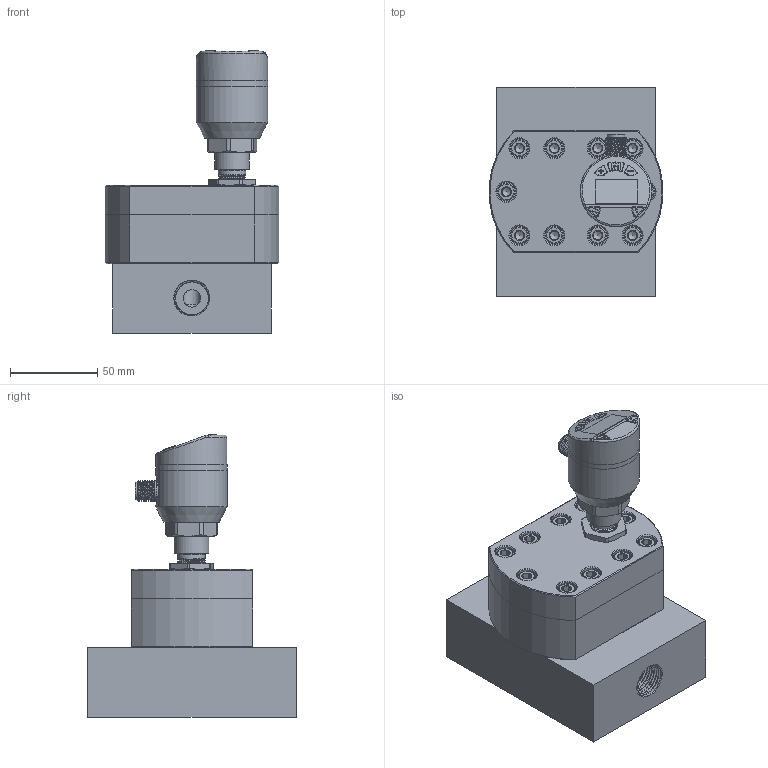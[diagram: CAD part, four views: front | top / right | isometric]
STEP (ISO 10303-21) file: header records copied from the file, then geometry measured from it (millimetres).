
FILE_DESCRIPTION( (''), '2;1');
FILE_NAME( 'QZKB_M4_mounting-plate.step', '2025-05-06T16:31:48+08:00', (''), (''), '', '', '');
FILE_SCHEMA (('AUTOMOTIVE_DESIGN { 1 0 10303 214 3 1 1 1 }'));
Products named in the file (1): QZKB M4_mounting-plate
Bounding box: 99.63 x 120 x 162.2 mm (x, y, z)
Volume: 724591.8 mm3; surface area: 144050 mm2
Topology: 28 solids, 29 shells, 1293 faces, 3119 edges, 1965 vertices
Faces by surface type: plane 651, cylinder 314, cone 189, bspline 65, torus 59, sphere 11, extrusion 4
Full cylindrical faces by diameter (mm): 1 x12, 2.7 x5, 3.1 x1, 3.5 x2, 4 x3, 5 x21, 5.795 x10, 6 x3, 6.5 x14, 7 x3, 8 x3, 8.4 x1, 9.7 x1, 9.8 x1, 10 x14, 10.1 x1, 11 x11, 11.6 x2, 12 x1, 15.9 x1, 20 x1, 23 x3, 26 x4, 26.1 x1, 35 x1, 37 x3, 41 x3
Entity records: 59448 total; most frequent: CARTESIAN_POINT 30422, DIRECTION 5771, ORIENTED_EDGE 5526, EDGE_CURVE 2763, AXIS2_PLACEMENT_3D 2208, VERTEX_POINT 1880, EDGE_LOOP 1671, VECTOR 1355
